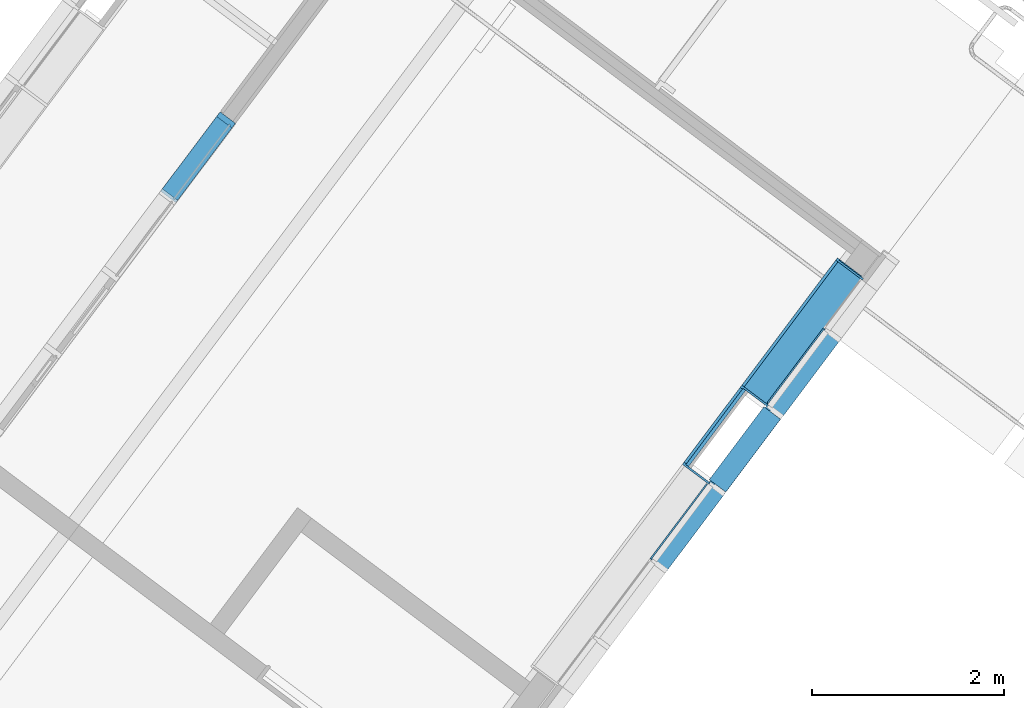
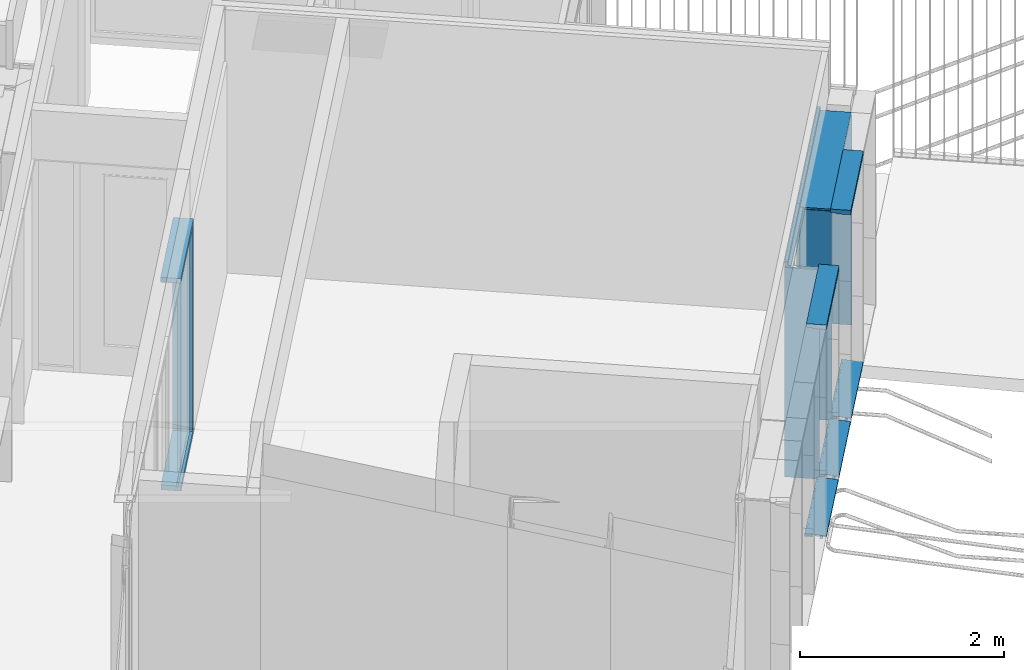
# One storey, part 26 of 243: 13 members, 3 elements without a shape of their own.
"""IFC2X3 building model written with IfcOpenShell, lengths in metres."""

from ifc_helpers import new_model, entity, si_unit, converted_unit, derived_unit, direction, frame, frame_2d, origin, place, context, subcontext, project, spatial, polyline, circle_curve, parameter, trimmed, segment, composite_curve, outline, extrude, source, transform, mapped, material, type_object, type_shapes, element, aggregate, save


model = new_model("IFC2X3")

# Units and contexts
model_context = context("Model", 3, precision=1e-05, world=origin(), true_north=direction((6.123031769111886e-17, 1.0)))
body_context = subcontext(model_context, "Body", "Model", "MODEL_VIEW")
ifc_project = project(units=[si_unit("LENGTHUNIT", "METRE"), si_unit("AREAUNIT", "SQUARE_METRE"), si_unit("VOLUMEUNIT", "CUBIC_METRE"), converted_unit("PLANEANGLEUNIT", "DEGREE", entity("IfcRatioMeasure", 0.017453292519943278), si_unit("PLANEANGLEUNIT", "RADIAN"), dimensions=[0, 0, 0, 0, 0, 0, 0]), si_unit("MASSUNIT", "GRAM", prefix="KILO"), derived_unit("MASSDENSITYUNIT", [(si_unit("MASSUNIT", "GRAM", prefix="KILO"), 1), (si_unit("LENGTHUNIT", "METRE"), -3)]), derived_unit("IONCONCENTRATIONUNIT", [(si_unit("MASSUNIT", "GRAM", prefix="KILO"), 1), (si_unit("LENGTHUNIT", "METRE"), -3)]), derived_unit("MOMENTOFINERTIAUNIT", [(si_unit("LENGTHUNIT", "METRE"), 4)]), si_unit("TIMEUNIT", "SECOND"), si_unit("FREQUENCYUNIT", "HERTZ"), si_unit("THERMODYNAMICTEMPERATUREUNIT", "DEGREE_CELSIUS"), derived_unit("THERMALTRANSMITTANCEUNIT", [(si_unit("MASSUNIT", "GRAM", prefix="KILO"), 1), (si_unit("THERMODYNAMICTEMPERATUREUNIT", "KELVIN"), -1), (si_unit("TIMEUNIT", "SECOND"), -3)]), derived_unit("THERMALCONDUCTANCEUNIT", [(si_unit("MASSUNIT", "GRAM", prefix="KILO"), 1), (si_unit("THERMODYNAMICTEMPERATUREUNIT", "KELVIN"), -1), (si_unit("TIMEUNIT", "SECOND"), -3), (si_unit("LENGTHUNIT", "METRE"), 1)]), derived_unit("VOLUMETRICFLOWRATEUNIT", [(si_unit("LENGTHUNIT", "METRE"), 3), (si_unit("TIMEUNIT", "SECOND"), -1)]), derived_unit("MASSFLOWRATEUNIT", [(si_unit("MASSUNIT", "GRAM", prefix="KILO"), 1), (si_unit("TIMEUNIT", "SECOND"), -1)]), derived_unit("ROTATIONALFREQUENCYUNIT", [(si_unit("TIMEUNIT", "SECOND"), -1)]), si_unit("ELECTRICCURRENTUNIT", "AMPERE"), si_unit("ELECTRICVOLTAGEUNIT", "VOLT"), si_unit("POWERUNIT", "WATT"), si_unit("FORCEUNIT", "NEWTON", prefix="KILO"), si_unit("ILLUMINANCEUNIT", "LUX"), si_unit("LUMINOUSFLUXUNIT", "LUMEN"), si_unit("LUMINOUSINTENSITYUNIT", "CANDELA"), derived_unit("USERDEFINED", [(si_unit("MASSUNIT", "GRAM", prefix="KILO"), -1), (si_unit("LENGTHUNIT", "METRE"), -2), (si_unit("TIMEUNIT", "SECOND"), 3), (si_unit("LUMINOUSFLUXUNIT", "LUMEN"), 1)]), derived_unit("USERDEFINED", [(si_unit("MASSUNIT", "GRAM", prefix="KILO"), 1), (si_unit("TIMEUNIT", "SECOND"), -3), (si_unit("LENGTHUNIT", "METRE"), 3), (si_unit("ELECTRICCURRENTUNIT", "AMPERE"), -2)]), derived_unit("SOUNDPOWERUNIT", [(si_unit("MASSUNIT", "GRAM", prefix="KILO"), 1), (si_unit("TIMEUNIT", "SECOND"), -3), (si_unit("LENGTHUNIT", "METRE"), 2)]), derived_unit("SOUNDPRESSUREUNIT", [(si_unit("MASSUNIT", "GRAM", prefix="KILO"), 1), (si_unit("LENGTHUNIT", "METRE"), -1), (si_unit("TIMEUNIT", "SECOND"), -2)]), derived_unit("LINEARVELOCITYUNIT", [(si_unit("LENGTHUNIT", "METRE"), 1), (si_unit("TIMEUNIT", "SECOND"), -1)]), si_unit("PRESSUREUNIT", "PASCAL"), derived_unit("USERDEFINED", [(si_unit("MASSUNIT", "GRAM", prefix="KILO"), 1), (si_unit("LENGTHUNIT", "METRE"), -2), (si_unit("TIMEUNIT", "SECOND"), -2)]), derived_unit("LINEARFORCEUNIT", [(si_unit("MASSUNIT", "GRAM", prefix="KILO"), 1), (si_unit("TIMEUNIT", "SECOND"), -2)]), derived_unit("PLANARFORCEUNIT", [(si_unit("MASSUNIT", "GRAM", prefix="KILO"), 1), (si_unit("LENGTHUNIT", "METRE"), -1), (si_unit("TIMEUNIT", "SECOND"), -2)]), derived_unit("SPECIFICHEATCAPACITYUNIT", [(si_unit("THERMODYNAMICTEMPERATUREUNIT", "KELVIN"), -1), (si_unit("LENGTHUNIT", "METRE"), 2), (si_unit("TIMEUNIT", "SECOND"), -2)]), derived_unit("HEATINGVALUEUNIT", [(si_unit("LENGTHUNIT", "METRE"), 2), (si_unit("TIMEUNIT", "SECOND"), -2)]), derived_unit("VAPORPERMEABILITYUNIT", [(si_unit("LENGTHUNIT", "METRE"), -1), (si_unit("TIMEUNIT", "SECOND"), 1)]), derived_unit("DYNAMICVISCOSITYUNIT", [(si_unit("MASSUNIT", "GRAM", prefix="KILO"), 1), (si_unit("TIMEUNIT", "SECOND"), -1), (si_unit("LENGTHUNIT", "METRE"), -1)]), derived_unit("THERMALEXPANSIONCOEFFICIENTUNIT", [(si_unit("THERMODYNAMICTEMPERATUREUNIT", "KELVIN"), -1)]), derived_unit("MODULUSOFELASTICITYUNIT", [(si_unit("MASSUNIT", "GRAM", prefix="KILO"), 1), (si_unit("LENGTHUNIT", "METRE"), -1), (si_unit("TIMEUNIT", "SECOND"), -2)]), derived_unit("ISOTHERMALMOISTURECAPACITYUNIT", [(si_unit("LENGTHUNIT", "METRE"), 3), (si_unit("MASSUNIT", "GRAM", prefix="KILO"), -1)]), derived_unit("MOISTUREDIFFUSIVITYUNIT", [(si_unit("TIMEUNIT", "SECOND"), -1), (si_unit("LENGTHUNIT", "METRE"), 2)])], contexts=[model_context])

# Site, building, storey
site_placement = place(None, frame((0.0, 0.0, 235.0), z_axis=(0.0, 0.0, 1.0), x_axis=(-0.7996477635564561, 0.6004693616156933, 0.0)))
site = spatial("IfcSite", under=ifc_project, at=site_placement, Name="Default", CompositionType="ELEMENT")
building_placement = place(site_placement, origin())
building = spatial("IfcBuilding", under=site, at=building_placement, CompositionType="ELEMENT")
storey_placement = place(building_placement, origin())
storey = spatial("IfcBuildingStorey", under=building, at=storey_placement, Name="P0- Escola", CompositionType="ELEMENT", Elevation=0.0)

# Curtain wall, members
curtain_wall_type_1 = type_object("IfcCurtainWallType", Name="Muro cortina:MC- INT- a2", PredefinedType="NOTDEFINED")
curtain_wall_1_placement = place(storey_placement, origin())
curtain_wall_1 = element("IfcCurtainWall", 1, at=curtain_wall_1_placement, inside=storey, type_object=curtain_wall_type_1, Name="Muro cortina:MC- INT- a2", ObjectType="Muro cortina:MC- INT- a2")
ifc_material_1 = material(Name="_Fusta massisa- T1")
member_type_1 = type_object("IfcMemberType", Name="Montante rectangular:MC- Fusta- 20x6 cm- Esquerra", PredefinedType="MULLION", material=ifc_material_1)
shared_shape_1 = source(origin(), body_context, "Body", "SweptSolid", [
    extrude(outline(polyline([(-0.13000000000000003, -0.018750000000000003), (0.020000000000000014, -0.018750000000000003), (0.020000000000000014, -0.003750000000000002), (0.040000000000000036, -0.003750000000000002), (0.04000000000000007, -0.01875000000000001), (0.07000000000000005, -0.018750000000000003), (0.06999999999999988, 0.041249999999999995), (-0.13000000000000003, 0.041249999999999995), (-0.13000000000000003, -0.018750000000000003)])), frame((-0.041249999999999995, 0.030000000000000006, -1.0299999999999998), z_axis=(0.0, 0.0, 1.0), x_axis=(0.0, -1.0, 0.0)), (0.0, 0.0, 1.0), 1.0299999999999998),
])
type_shapes(member_type_1, [shared_shape_1])
member_1_placement = place(curtain_wall_1_placement, frame((34.62014768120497, -33.41519175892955, 2.565), z_axis=(0.0, 1.0, 0.0), x_axis=(0.0, 0.0, 1.0)))
member_1 = element("IfcMember", 2, at=member_1_placement, type_object=member_type_1, material=ifc_material_1, Name="Montante rectangular:MC- Fusta- 20x6 cm- Esquerra", ObjectType="Montante rectangular:MC- Fusta- 20x6 cm- Esquerra", context=body_context, shape_type="MappedRepresentation", body=[
    mapped(shared_shape_1, transform((0.0, 0.0, 0.0), scale=1.0)),
])
member_type_2 = type_object("IfcMemberType", Name="Montante rectangular:MC- Fusta- 20x6 cm- Inferior", PredefinedType="MULLION", material=ifc_material_1)
shared_shape_2 = source(origin(), body_context, "Body", "SweptSolid", [
    extrude(outline(polyline([(-0.12999999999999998, -0.018750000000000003), (0.01999999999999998, -0.018750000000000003), (0.01999999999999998, -0.0037500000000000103), (0.04, -0.0037500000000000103), (0.039999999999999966, -0.018750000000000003), (0.06999999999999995, -0.018750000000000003), (0.07000000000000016, 0.041249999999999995), (-0.12999999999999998, 0.041249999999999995), (-0.12999999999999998, -0.018750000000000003)])), frame((-0.041249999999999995, 0.029999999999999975, -0.9399999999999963), z_axis=(0.0, 0.0, 1.0), x_axis=(0.0, -1.0, 0.0)), (0.0, 0.0, 1.0), 0.9399999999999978),
])
type_shapes(member_type_2, [shared_shape_2])
member_2_placement = place(curtain_wall_1_placement, frame((34.62014768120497, -34.38519175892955, 0.0), z_axis=(0.0, -1.0, 0.0), x_axis=(0.0, 0.0, -1.0)))
member_2 = element("IfcMember", 3, at=member_2_placement, type_object=member_type_2, material=ifc_material_1, Name="Montante rectangular:MC- Fusta- 20x6 cm- Inferior", ObjectType="Montante rectangular:MC- Fusta- 20x6 cm- Inferior", context=body_context, shape_type="MappedRepresentation", body=[
    mapped(shared_shape_2, transform((0.0, 0.0, 0.0), scale=1.0)),
])
member_type_3 = type_object("IfcMemberType", Name="Montante rectangular:MC- Fusta- 20x6 cm- Dreta", PredefinedType="MULLION", material=ifc_material_1)
shared_shape_3 = source(origin(), body_context, "Body", "SweptSolid", [
    extrude(outline(polyline([(-0.13000000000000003, -0.018750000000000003), (0.019999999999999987, -0.018750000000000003), (0.019999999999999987, -0.0037500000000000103), (0.04000000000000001, -0.0037500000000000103), (0.03999999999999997, -0.018750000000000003), (0.06999999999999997, -0.018750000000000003), (0.07000000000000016, 0.041249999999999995), (-0.13000000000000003, 0.041249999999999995), (-0.13000000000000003, -0.018750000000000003)])), frame((-0.041249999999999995, 0.02999999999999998, -2.5050000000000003), z_axis=(0.0, 0.0, 1.0), x_axis=(0.0, -1.0, 0.0)), (0.0, 0.0, 1.0), 2.5050000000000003),
])
type_shapes(member_type_3, [shared_shape_3])
member_3_placement = place(curtain_wall_1_placement, frame((34.62014768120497, -34.44519175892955, 2.5050000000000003), z_axis=(0.0, 0.0, 1.0), x_axis=(0.0, -1.0, 0.0)))
member_3 = element("IfcMember", 4, at=member_3_placement, type_object=member_type_3, material=ifc_material_1, Name="Montante rectangular:MC- Fusta- 20x6 cm- Dreta", ObjectType="Montante rectangular:MC- Fusta- 20x6 cm- Dreta", context=body_context, shape_type="MappedRepresentation", body=[
    mapped(shared_shape_3, transform((0.0, 0.0, 0.0), scale=1.0)),
])
aggregate(curtain_wall_1, [member_3, member_1, member_2])

curtain_wall_type_2 = type_object("IfcCurtainWallType", Name="Muro cortina:MC- INT- k7- Aules infantil", PredefinedType="NOTDEFINED")
curtain_wall_2_placement = place(storey_placement, origin())
curtain_wall_2 = element("IfcCurtainWall", 5, at=curtain_wall_2_placement, inside=storey, type_object=curtain_wall_type_2, Name="Muro cortina:MC- INT- k7- Aules infantil", ObjectType="Muro cortina:MC- INT- k7- Aules infantil")
member_type_4 = type_object("IfcMemberType", Name="Montante rectangular:MC- Fusta- 35x3 cm- Pati aules- Remat dreta", PredefinedType="MULLION", material=ifc_material_1)
shared_shape_4 = source(origin(), body_context, "Body", "SweptSolid", [
    extrude(outline(polyline([(-0.22, -0.01666666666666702), (0.12500000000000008, -0.01666666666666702), (0.12500000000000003, 0.013333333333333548), (0.09500000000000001, 0.013333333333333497), (0.09499999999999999, 0.003333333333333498), (-0.22, 0.003333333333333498), (-0.22, -0.01666666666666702)])), frame((0.0016666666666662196, 0.03000000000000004, -2.504999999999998), z_axis=(0.0, 0.0, 1.0), x_axis=(0.0, -1.0, 0.0)), (0.0, 0.0, 1.0), 2.5049999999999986),
])
type_shapes(member_type_4, [shared_shape_4])
member_4_placement = place(curtain_wall_2_placement, frame((28.645147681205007, -34.41519175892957, 0.0), z_axis=(0.0, 0.0, -1.0), x_axis=(0.0, -1.0, 0.0)))
member_4 = element("IfcMember", 6, at=member_4_placement, type_object=member_type_4, material=ifc_material_1, Name="Montante rectangular:MC- Fusta- 35x3 cm- Pati aules- Remat dreta", ObjectType="Montante rectangular:MC- Fusta- 35x3 cm- Pati aules- Remat dreta", context=body_context, shape_type="MappedRepresentation", body=[
    mapped(shared_shape_4, transform((0.0, 0.0, 0.0), scale=1.0)),
])
member_type_5 = type_object("IfcMemberType", Name="Montante rectangular:MC- Fusta- 35x3 cm- Pati aules- Remat superior pilar", PredefinedType="MULLION", material=ifc_material_1)
shared_shape_5 = source(origin(), body_context, "Body", "SweptSolid", [
    extrude(outline(polyline([(-0.03333333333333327, -0.02666666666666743), (0.031666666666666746, -0.02666666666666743), (0.031666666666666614, 0.03333333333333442), (0.0016666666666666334, 0.033333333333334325), (0.0016666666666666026, -0.006666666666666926), (-0.03333333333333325, -0.00666666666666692), (-0.03333333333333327, -0.02666666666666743)])), frame((-0.03333333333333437, -0.06333333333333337, -1.0), z_axis=(0.0, 0.0, 1.0), x_axis=(0.0, -1.0, 0.0)), (0.0, 0.0, 1.0), 0.9999999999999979),
])
type_shapes(member_type_5, [shared_shape_5])
member_5_placement = place(curtain_wall_2_placement, frame((28.645147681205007, -35.41519175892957, 2.565), z_axis=(0.0, -1.0, 0.0), x_axis=(0.0, 0.0, 1.0)))
member_5 = element("IfcMember", 7, at=member_5_placement, type_object=member_type_5, material=ifc_material_1, Name="Montante rectangular:MC- Fusta- 35x3 cm- Pati aules- Remat superior pilar", ObjectType="Montante rectangular:MC- Fusta- 35x3 cm- Pati aules- Remat superior pilar", context=body_context, shape_type="MappedRepresentation", body=[
    mapped(shared_shape_5, transform((0.0, 0.0, 0.0), scale=1.0)),
])
member_type_6 = type_object("IfcMemberType", Name="Montante rectangular:MC- Fusta- 35x3 cm- Pati aules- Remat esquerra", PredefinedType="MULLION", material=ifc_material_1)
shared_shape_6 = source(origin(), body_context, "Body", "SweptSolid", [
    extrude(outline(polyline([(0.09500000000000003, -0.013333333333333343), (0.12500000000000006, -0.013333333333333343), (0.12500000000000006, 0.01666666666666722), (-0.22000000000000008, 0.016666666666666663), (-0.22000000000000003, -0.0033333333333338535), (0.09499999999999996, -0.003333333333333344), (0.09500000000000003, -0.013333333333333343)])), frame((-0.0016666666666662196, 0.03000000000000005, -2.504999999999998), z_axis=(0.0, 0.0, 1.0), x_axis=(0.0, -1.0, 0.0)), (0.0, 0.0, 1.0), 2.5049999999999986),
])
type_shapes(member_type_6, [shared_shape_6])
member_6_placement = place(curtain_wall_2_placement, frame((28.645147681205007, -35.41519175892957, 0.0), z_axis=(0.0, 0.0, -1.0), x_axis=(0.0, -1.0, 0.0)))
member_6 = element("IfcMember", 8, at=member_6_placement, type_object=member_type_6, material=ifc_material_1, Name="Montante rectangular:MC- Fusta- 35x3 cm- Pati aules- Remat esquerra", ObjectType="Montante rectangular:MC- Fusta- 35x3 cm- Pati aules- Remat esquerra", context=body_context, shape_type="MappedRepresentation", body=[
    mapped(shared_shape_6, transform((0.0, 0.0, 0.0), scale=1.0)),
])
member_type_7 = type_object("IfcMemberType", Name="Montante rectangular:MC- Fusta- 35x3 cm- Pati aules- Remat dreta", PredefinedType="MULLION", material=ifc_material_1)
shared_shape_7 = source(origin(), body_context, "Body", "SweptSolid", [
    extrude(outline(polyline([(-0.22000000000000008, -0.01666666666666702), (0.12500000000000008, -0.01666666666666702), (0.12500000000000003, 0.013333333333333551), (0.09500000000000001, 0.013333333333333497), (0.09499999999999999, 0.003333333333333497), (-0.22, 0.003333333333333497), (-0.22000000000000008, -0.01666666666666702)])), frame((-0.013333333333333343, 0.030000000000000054, -2.504999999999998), z_axis=(0.0, 0.0, 1.0), x_axis=(0.0, -1.0, 0.0)), (0.0, 0.0, 1.0), 2.5049999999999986),
])
type_shapes(member_type_7, [shared_shape_7])
member_7_placement = place(curtain_wall_2_placement, frame((28.64514768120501, -37.08419175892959, 0.0), z_axis=(0.0, 0.0, -1.0), x_axis=(0.0, -1.0, 0.0)))
member_7 = element("IfcMember", 9, at=member_7_placement, type_object=member_type_7, material=ifc_material_1, Name="Montante rectangular:MC- Fusta- 35x3 cm- Pati aules- Remat dreta", ObjectType="Montante rectangular:MC- Fusta- 35x3 cm- Pati aules- Remat dreta", context=body_context, shape_type="MappedRepresentation", body=[
    mapped(shared_shape_7, transform((0.0, 0.0, 0.0), scale=1.0)),
])
member_type_8 = type_object("IfcMemberType", Name="Montante rectangular:MC- Fusta- 35x3 cm- Pati aules- Remat superior", PredefinedType="MULLION", material=ifc_material_1)
shared_shape_8 = source(origin(), body_context, "Body", "SweptSolid", [
    extrude(outline(polyline([(-0.21333333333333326, -0.02666666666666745), (0.1216666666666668, -0.02666666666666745), (0.12166666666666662, 0.03333333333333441), (0.09166666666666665, 0.03333333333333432), (0.09166666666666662, -0.006666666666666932), (-0.2133333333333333, -0.006666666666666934), (-0.21333333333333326, -0.02666666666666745)])), frame((-0.033333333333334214, 0.026666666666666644, -1.6690000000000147), z_axis=(0.0, 0.0, 1.0), x_axis=(0.0, -1.0, 0.0)), (0.0, 0.0, 1.0), 1.6690000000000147),
])
type_shapes(member_type_8, [shared_shape_8])
member_8_placement = place(curtain_wall_2_placement, frame((28.64514768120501, -37.08419175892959, 2.565), z_axis=(0.0, -1.0, 0.0), x_axis=(0.0, 0.0, 1.0)))
member_8 = element("IfcMember", 10, at=member_8_placement, type_object=member_type_8, material=ifc_material_1, Name="Montante rectangular:MC- Fusta- 35x3 cm- Pati aules- Remat superior", ObjectType="Montante rectangular:MC- Fusta- 35x3 cm- Pati aules- Remat superior", context=body_context, shape_type="MappedRepresentation", body=[
    mapped(shared_shape_8, transform((0.0, 0.0, 0.0), scale=1.0)),
])
aggregate(curtain_wall_2, [member_8, member_4, member_5, member_6, member_7])

curtain_wall_type_3 = type_object("IfcCurtainWallType", Name="Muro cortina:MC- EXT- MC2", PredefinedType="NOTDEFINED")
curtain_wall_3_placement = place(storey_placement, origin())
curtain_wall_3 = element("IfcCurtainWall", 11, at=curtain_wall_3_placement, inside=storey, type_object=curtain_wall_type_3, Name="Muro cortina:MC- EXT- MC2", ObjectType="Muro cortina:MC- EXT- MC2")
ifc_material_2 = material(Name="_Alumini- T1- Perfil")
member_type_9 = type_object("IfcMemberType", Name="Montante rectangular:MC- Alu- 140x52,5 cm- Fa patis- inferior", PredefinedType="MULLION", material=ifc_material_2)
shared_shape_9 = source(origin(), body_context, "Body", "SweptSolid", [
    extrude(outline(composite_curve([segment(polyline([(0.1278672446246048, -0.02586710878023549), (0.14416724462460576, -0.025867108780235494)]), True, "CONTINUOUS"), segment(polyline([(0.14416724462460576, -0.025867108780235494), (0.1441672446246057, 0.009132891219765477)]), True, "CONTINUOUS"), segment(polyline([(0.1441672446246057, 0.009132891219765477), (0.06786724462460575, 0.009132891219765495)]), True, "CONTINUOUS"), segment(polyline([(0.06786724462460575, 0.009132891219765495), (0.06786724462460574, -0.021159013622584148)]), True, "CONTINUOUS"), segment(polyline([(0.06786724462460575, -0.02115901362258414), (-0.030132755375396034, -0.012332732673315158)]), True, "CONTINUOUS"), segment(polyline([(-0.03013275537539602, -0.012332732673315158), (-0.030132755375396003, 0.027132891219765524)]), True, "CONTINUOUS"), segment(polyline([(-0.030132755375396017, 0.02713289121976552), (-0.0021327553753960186, 0.02713289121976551)]), True, "CONTINUOUS"), segment(polyline([(-0.0021327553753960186, 0.027132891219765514), (-0.0021327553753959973, 0.029132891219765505)]), True, "CONTINUOUS"), segment(polyline([(-0.0021327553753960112, 0.029132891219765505), (-0.032132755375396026, 0.029132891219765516)]), True, "CONTINUOUS"), segment(polyline([(-0.032132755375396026, 0.029132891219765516), (-0.03213275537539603, -0.012152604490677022)]), True, "CONTINUOUS"), segment(polyline([(-0.03213275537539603, -0.012152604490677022), (-0.0701327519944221, -0.008730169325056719)]), True, "CONTINUOUS"), segment(polyline([(-0.0701327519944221, -0.008730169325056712), (-0.0701327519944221, 0.005766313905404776)]), True, "CONTINUOUS"), segment(trimmed(circle_curve(frame_2d((-0.0696327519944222, 0.0057663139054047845), x_axis=(-1.0, 0.0)), 0.0004999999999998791), [parameter(269.999999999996)], [parameter(0.0)], True, "PARAMETER"), False, "CONTINUOUS"), segment(polyline([(-0.0696327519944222, 0.00626631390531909), (-0.06213275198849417, 0.006266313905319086)]), True, "CONTINUOUS"), segment(polyline([(-0.06213275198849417, 0.006266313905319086), (-0.06213275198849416, 0.008266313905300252)]), True, "CONTINUOUS"), segment(polyline([(-0.06213275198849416, 0.008266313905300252), (-0.07013275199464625, 0.008266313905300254)]), True, "CONTINUOUS"), segment(trimmed(circle_curve(frame_2d((-0.07013275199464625, 0.006266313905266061), x_axis=(0.0, 1.0)), 0.0020000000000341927), [parameter(0.0)], [parameter(90.00000002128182)], True, "PARAMETER"), True, "CONTINUOUS"), segment(polyline([(-0.07213275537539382, 0.006266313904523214), (-0.07213275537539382, -0.008730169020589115)]), True, "CONTINUOUS"), segment(trimmed(circle_curve(frame_2d((-0.07013275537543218, -0.008730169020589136), x_axis=(-1.0, 0.0)), 0.0019999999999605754), [parameter(0.0)], [parameter(84.85359280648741)], True, "PARAMETER"), True, "CONTINUOUS"), segment(polyline([(-0.07031215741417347, -0.01072210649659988), (0.06786724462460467, -0.023167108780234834)]), True, "CONTINUOUS"), segment(polyline([(0.06786724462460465, -0.023167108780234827), (0.12786724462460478, -0.023167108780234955)]), True, "CONTINUOUS"), segment(polyline([(0.12786724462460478, -0.023167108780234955), (0.1278672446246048, -0.02586710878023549)]), True, "CONTINUOUS")], self_intersect=False)), frame((-0.029132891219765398, 0.06786724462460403, -0.9737499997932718), z_axis=(0.0, 0.0, 1.0), x_axis=(0.0, -1.0, 0.0)), (0.0, 0.0, 1.0), 0.9737499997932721),
])
type_shapes(member_type_9, [shared_shape_9])
member_9_placement = place(curtain_wall_3_placement, frame((28.34514768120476, -33.41519175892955, -0.02), z_axis=(0.0, 1.0, 0.0), x_axis=(0.0, 0.0, -1.0)))
member_9 = element("IfcMember", 12, at=member_9_placement, type_object=member_type_9, material=ifc_material_2, Name="Montante rectangular:MC- Alu- 140x52,5 cm- Fa patis- inferior", ObjectType="Montante rectangular:MC- Alu- 140x52,5 cm- Fa patis- inferior", context=body_context, shape_type="MappedRepresentation", body=[
    mapped(shared_shape_9, transform((0.0, 0.0, 0.0), scale=1.0)),
])
member_type_10 = type_object("IfcMemberType", Name="Montante rectangular:MC- Alu- 140x52,5 cm- Fa patis- Superior", PredefinedType="MULLION", material=ifc_material_2)
shared_shape_10 = source(origin(), body_context, "Body", "SweptSolid", [
    extrude(outline(polyline([(-0.11366666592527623, -0.021249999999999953), (0.026333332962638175, -0.021249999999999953), (0.026333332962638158, -0.010000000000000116), (0.08733333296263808, -0.010000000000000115), (0.08733333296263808, 0.03125000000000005), (-0.11366666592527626, 0.031250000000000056), (-0.11366666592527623, -0.021249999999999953)])), frame((-0.031250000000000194, 0.0273333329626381, -1.0262500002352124), z_axis=(0.0, 0.0, 1.0), x_axis=(0.0, -1.0, 0.0)), (0.0, 0.0, 1.0), 1.0262500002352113),
])
type_shapes(member_type_10, [shared_shape_10])
member_10_placement = place(curtain_wall_3_placement, frame((28.34514768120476, -34.44144175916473, 2.545), z_axis=(0.0, -1.0, 0.0), x_axis=(0.0, 0.0, 1.0)))
member_10 = element("IfcMember", 13, at=member_10_placement, type_object=member_type_10, material=ifc_material_2, Name="Montante rectangular:MC- Alu- 140x52,5 cm- Fa patis- Superior", ObjectType="Montante rectangular:MC- Alu- 140x52,5 cm- Fa patis- Superior", context=body_context, shape_type="MappedRepresentation", body=[
    mapped(shared_shape_10, transform((0.0, 0.0, 0.0), scale=1.0)),
])
member_type_11 = type_object("IfcMemberType", Name="Montante rectangular:MC- Alu- 140x52,5 cm- Fa patis- inferior", PredefinedType="MULLION", material=ifc_material_2)
shared_shape_11 = source(origin(), body_context, "Body", "SweptSolid", [
    extrude(outline(composite_curve([segment(polyline([(0.1278672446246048, -0.02586710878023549), (0.14416724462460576, -0.025867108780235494)]), True, "CONTINUOUS"), segment(polyline([(0.14416724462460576, -0.025867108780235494), (0.1441672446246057, 0.009132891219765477)]), True, "CONTINUOUS"), segment(polyline([(0.1441672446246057, 0.009132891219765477), (0.06786724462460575, 0.009132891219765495)]), True, "CONTINUOUS"), segment(polyline([(0.06786724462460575, 0.009132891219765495), (0.06786724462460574, -0.021159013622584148)]), True, "CONTINUOUS"), segment(polyline([(0.06786724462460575, -0.02115901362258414), (-0.030132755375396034, -0.012332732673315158)]), True, "CONTINUOUS"), segment(polyline([(-0.03013275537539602, -0.012332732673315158), (-0.030132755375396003, 0.027132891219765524)]), True, "CONTINUOUS"), segment(polyline([(-0.030132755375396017, 0.02713289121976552), (-0.0021327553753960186, 0.02713289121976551)]), True, "CONTINUOUS"), segment(polyline([(-0.0021327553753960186, 0.027132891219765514), (-0.0021327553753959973, 0.029132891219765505)]), True, "CONTINUOUS"), segment(polyline([(-0.0021327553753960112, 0.029132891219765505), (-0.032132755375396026, 0.029132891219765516)]), True, "CONTINUOUS"), segment(polyline([(-0.032132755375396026, 0.029132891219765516), (-0.03213275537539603, -0.012152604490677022)]), True, "CONTINUOUS"), segment(polyline([(-0.03213275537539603, -0.012152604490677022), (-0.0701327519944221, -0.008730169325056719)]), True, "CONTINUOUS"), segment(polyline([(-0.0701327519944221, -0.008730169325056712), (-0.0701327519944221, 0.005766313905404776)]), True, "CONTINUOUS"), segment(trimmed(circle_curve(frame_2d((-0.0696327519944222, 0.0057663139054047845), x_axis=(-1.0, 0.0)), 0.0004999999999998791), [parameter(269.999999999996)], [parameter(0.0)], True, "PARAMETER"), False, "CONTINUOUS"), segment(polyline([(-0.0696327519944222, 0.00626631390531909), (-0.06213275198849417, 0.006266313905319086)]), True, "CONTINUOUS"), segment(polyline([(-0.06213275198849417, 0.006266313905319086), (-0.06213275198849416, 0.008266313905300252)]), True, "CONTINUOUS"), segment(polyline([(-0.06213275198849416, 0.008266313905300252), (-0.07013275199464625, 0.008266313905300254)]), True, "CONTINUOUS"), segment(trimmed(circle_curve(frame_2d((-0.07013275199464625, 0.006266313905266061), x_axis=(0.0, 1.0)), 0.0020000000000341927), [parameter(0.0)], [parameter(90.00000002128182)], True, "PARAMETER"), True, "CONTINUOUS"), segment(polyline([(-0.07213275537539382, 0.006266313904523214), (-0.07213275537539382, -0.008730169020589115)]), True, "CONTINUOUS"), segment(trimmed(circle_curve(frame_2d((-0.07013275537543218, -0.008730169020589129), x_axis=(-1.0, 0.0)), 0.0019999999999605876), [parameter(0.0)], [parameter(84.85359280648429)], True, "PARAMETER"), True, "CONTINUOUS"), segment(polyline([(-0.07031215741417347, -0.01072210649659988), (0.06786724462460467, -0.023167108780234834)]), True, "CONTINUOUS"), segment(polyline([(0.06786724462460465, -0.023167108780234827), (0.12786724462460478, -0.023167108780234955)]), True, "CONTINUOUS"), segment(polyline([(0.12786724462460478, -0.023167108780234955), (0.1278672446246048, -0.02586710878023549)]), True, "CONTINUOUS")], self_intersect=False)), frame((-0.029132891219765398, 0.06786724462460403, -0.9474999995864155), z_axis=(0.0, 0.0, 1.0), x_axis=(0.0, -1.0, 0.0)), (0.0, 0.0, 1.0), 0.9474999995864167),
])
type_shapes(member_type_11, [shared_shape_11])
member_11_placement = place(curtain_wall_3_placement, frame((28.34514768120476, -34.44144175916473, -0.02), z_axis=(0.0, 1.0, 0.0), x_axis=(0.0, 0.0, -1.0)))
member_11 = element("IfcMember", 14, at=member_11_placement, type_object=member_type_11, material=ifc_material_2, Name="Montante rectangular:MC- Alu- 140x52,5 cm- Fa patis- inferior", ObjectType="Montante rectangular:MC- Alu- 140x52,5 cm- Fa patis- inferior", context=body_context, shape_type="MappedRepresentation", body=[
    mapped(shared_shape_11, transform((0.0, 0.0, 0.0), scale=1.0)),
])
member_type_12 = type_object("IfcMemberType", Name="Montante rectangular:MC- Alu- 140x52,5 cm- Fa patis- inferior", PredefinedType="MULLION", material=ifc_material_2)
shared_shape_12 = source(origin(), body_context, "Body", "SweptSolid", [
    extrude(outline(composite_curve([segment(polyline([(0.1278672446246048, -0.02586710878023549), (0.14416724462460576, -0.025867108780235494)]), True, "CONTINUOUS"), segment(polyline([(0.14416724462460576, -0.025867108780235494), (0.1441672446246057, 0.009132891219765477)]), True, "CONTINUOUS"), segment(polyline([(0.1441672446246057, 0.009132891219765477), (0.06786724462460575, 0.009132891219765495)]), True, "CONTINUOUS"), segment(polyline([(0.06786724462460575, 0.009132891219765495), (0.06786724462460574, -0.021159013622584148)]), True, "CONTINUOUS"), segment(polyline([(0.06786724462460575, -0.02115901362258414), (-0.030132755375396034, -0.012332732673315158)]), True, "CONTINUOUS"), segment(polyline([(-0.03013275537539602, -0.012332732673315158), (-0.030132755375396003, 0.027132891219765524)]), True, "CONTINUOUS"), segment(polyline([(-0.030132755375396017, 0.02713289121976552), (-0.0021327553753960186, 0.02713289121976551)]), True, "CONTINUOUS"), segment(polyline([(-0.0021327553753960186, 0.027132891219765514), (-0.0021327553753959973, 0.029132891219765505)]), True, "CONTINUOUS"), segment(polyline([(-0.0021327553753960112, 0.029132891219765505), (-0.032132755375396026, 0.029132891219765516)]), True, "CONTINUOUS"), segment(polyline([(-0.032132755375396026, 0.029132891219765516), (-0.03213275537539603, -0.012152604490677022)]), True, "CONTINUOUS"), segment(polyline([(-0.03213275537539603, -0.012152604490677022), (-0.0701327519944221, -0.008730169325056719)]), True, "CONTINUOUS"), segment(polyline([(-0.0701327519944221, -0.008730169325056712), (-0.0701327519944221, 0.005766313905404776)]), True, "CONTINUOUS"), segment(trimmed(circle_curve(frame_2d((-0.0696327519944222, 0.0057663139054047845), x_axis=(-1.0, 0.0)), 0.0004999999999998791), [parameter(269.999999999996)], [parameter(0.0)], True, "PARAMETER"), False, "CONTINUOUS"), segment(polyline([(-0.0696327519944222, 0.00626631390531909), (-0.06213275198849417, 0.006266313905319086)]), True, "CONTINUOUS"), segment(polyline([(-0.06213275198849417, 0.006266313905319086), (-0.06213275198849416, 0.008266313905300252)]), True, "CONTINUOUS"), segment(polyline([(-0.06213275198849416, 0.008266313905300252), (-0.07013275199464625, 0.008266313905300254)]), True, "CONTINUOUS"), segment(trimmed(circle_curve(frame_2d((-0.07013275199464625, 0.006266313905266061), x_axis=(0.0, 1.0)), 0.0020000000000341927), [parameter(0.0)], [parameter(90.00000002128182)], True, "PARAMETER"), True, "CONTINUOUS"), segment(polyline([(-0.07213275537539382, 0.006266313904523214), (-0.07213275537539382, -0.008730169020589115)]), True, "CONTINUOUS"), segment(trimmed(circle_curve(frame_2d((-0.0701327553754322, -0.008730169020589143), x_axis=(-1.0, 0.0)), 0.0019999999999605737), [parameter(0.0)], [parameter(84.85359280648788)], True, "PARAMETER"), True, "CONTINUOUS"), segment(polyline([(-0.07031215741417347, -0.01072210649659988), (0.06786724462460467, -0.023167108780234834)]), True, "CONTINUOUS"), segment(polyline([(0.06786724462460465, -0.023167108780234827), (0.12786724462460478, -0.023167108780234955)]), True, "CONTINUOUS"), segment(polyline([(0.12786724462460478, -0.023167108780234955), (0.1278672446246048, -0.02586710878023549)]), True, "CONTINUOUS")], self_intersect=False)), frame((-0.029132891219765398, 0.06786724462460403, -0.9729861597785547), z_axis=(0.0, 0.0, 1.0), x_axis=(0.0, -1.0, 0.0)), (0.0, 0.0, 1.0), 0.9729861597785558),
])
type_shapes(member_type_12, [shared_shape_12])
member_12_placement = place(curtain_wall_3_placement, frame((28.345147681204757, -35.44144175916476, -0.02), z_axis=(0.0, 1.0, 0.0), x_axis=(0.0, 0.0, -1.0)))
member_12 = element("IfcMember", 15, at=member_12_placement, type_object=member_type_12, material=ifc_material_2, Name="Montante rectangular:MC- Alu- 140x52,5 cm- Fa patis- inferior", ObjectType="Montante rectangular:MC- Alu- 140x52,5 cm- Fa patis- inferior", context=body_context, shape_type="MappedRepresentation", body=[
    mapped(shared_shape_12, transform((0.0, 0.0, 0.0), scale=1.0)),
])
member_type_13 = type_object("IfcMemberType", Name="Montante rectangular:MC- Alu- 140x52,5 cm- Fa patis- Superior", PredefinedType="MULLION", material=ifc_material_2)
shared_shape_13 = source(origin(), body_context, "Body", "SweptSolid", [
    extrude(outline(polyline([(-0.11366666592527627, -0.021249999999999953), (0.02633333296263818, -0.021249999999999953), (0.02633333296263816, -0.010000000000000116), (0.08733333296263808, -0.010000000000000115), (0.08733333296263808, 0.03125000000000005), (-0.11366666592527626, 0.031250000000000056), (-0.11366666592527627, -0.021249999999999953)])), frame((-0.031250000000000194, 0.027333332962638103, -1.0254861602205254), z_axis=(0.0, 0.0, 1.0), x_axis=(0.0, -1.0, 0.0)), (0.0, 0.0, 1.0), 1.0254861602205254),
])
type_shapes(member_type_13, [shared_shape_13])
member_13_placement = place(curtain_wall_3_placement, frame((28.345147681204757, -36.41442791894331, 2.545), z_axis=(0.0, -1.0, 0.0), x_axis=(0.0, 0.0, 1.0)))
member_13 = element("IfcMember", 16, at=member_13_placement, type_object=member_type_13, material=ifc_material_2, Name="Montante rectangular:MC- Alu- 140x52,5 cm- Fa patis- Superior", ObjectType="Montante rectangular:MC- Alu- 140x52,5 cm- Fa patis- Superior", context=body_context, shape_type="MappedRepresentation", body=[
    mapped(shared_shape_13, transform((0.0, 0.0, 0.0), scale=1.0)),
])
aggregate(curtain_wall_3, [member_9, member_12, member_10, member_11, member_13])

save(model, "model.ifc")
